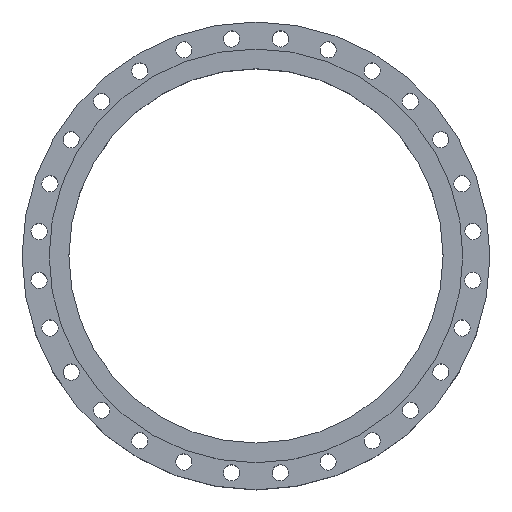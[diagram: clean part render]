
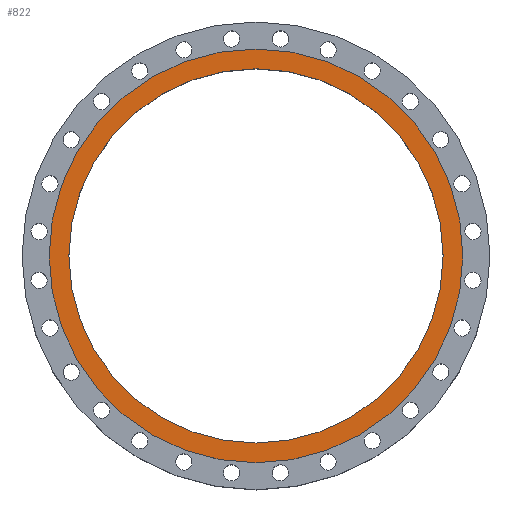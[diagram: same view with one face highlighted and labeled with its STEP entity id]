
A CAD part, top view. The second image highlights one B-rep face of the part: STEP entity #822.
In plain terms, the highlighted planar face has unit normal (0, 0, 1).
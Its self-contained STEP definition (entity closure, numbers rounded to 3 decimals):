
#822=ADVANCED_FACE('',(#1855,#1857),#1859,.T.);
#1855=FACE_BOUND('',#1856,.T.);
#1856=EDGE_LOOP('',(#2252));
#1857=FACE_BOUND('',#1858,.T.);
#1858=EDGE_LOOP('',(#2253));
#1859=PLANE('',#1860);
#1860=AXIS2_PLACEMENT_3D('',#1861,#1862,#1863);
#1861=CARTESIAN_POINT('',(0.,0.,132.5));
#1862=DIRECTION('',(0.,0.,1.));
#1863=DIRECTION('',(0.,1.,0.));
#2252=ORIENTED_EDGE('',*,*,#2432,.F.);
#2253=ORIENTED_EDGE('',*,*,#2434,.T.);
#2432=EDGE_CURVE('',#2758,#2758,#2759,.T.);
#2434=EDGE_CURVE('',#2762,#2762,#2763,.T.);
#2758=VERTEX_POINT('',#4523);
#2759=CIRCLE('',#4524,497.5);
#2762=VERTEX_POINT('',#4533);
#2763=CIRCLE('',#4534,450.);
#4523=CARTESIAN_POINT('',(0.,497.5,132.5));
#4524=AXIS2_PLACEMENT_3D('',#4525,#4526,#4527);
#4525=CARTESIAN_POINT('',(0.,0.,132.5));
#4526=DIRECTION('',(0.,0.,-1.));
#4527=DIRECTION('',(0.,1.,0.));
#4533=CARTESIAN_POINT('',(0.,450.,132.5));
#4534=AXIS2_PLACEMENT_3D('',#4535,#4536,#4537);
#4535=CARTESIAN_POINT('',(0.,0.,132.5));
#4536=DIRECTION('',(0.,0.,-1.));
#4537=DIRECTION('',(0.,1.,0.));
